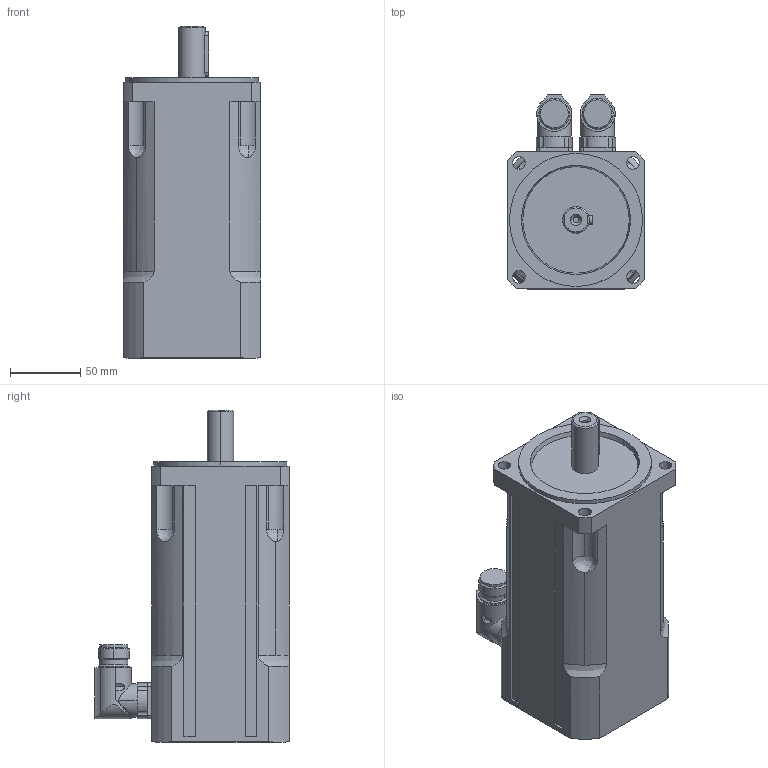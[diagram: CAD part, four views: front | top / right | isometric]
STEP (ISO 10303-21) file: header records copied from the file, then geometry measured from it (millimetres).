
FILE_DESCRIPTION(('STEP AP203'),'2;1');
FILE_NAME('MT4-0530_X.stp','2006-08-28T20:46:34',(''),(''),'2005.2.102','THINKDESIGN','');
FILE_SCHEMA(('CONFIG_CONTROL_DESIGN'));
Length unit declared in the file: millimetre
Bounding box: 98 x 138.5 x 237 mm (x, y, z)
Volume: 1812105.6 mm3; surface area: 117553 mm2
Topology: 3 solids, 3 shells, 249 faces, 647 edges, 418 vertices
Faces by surface type: cylinder 112, plane 77, bspline 60
Entity records: 9416 total; most frequent: CARTESIAN_POINT 3278, ORIENTED_EDGE 1294, DIRECTION 1249, EDGE_CURVE 647, AXIS2_PLACEMENT_3D 483, VERTEX_POINT 418, CIRCLE 294, EDGE_LOOP 287
